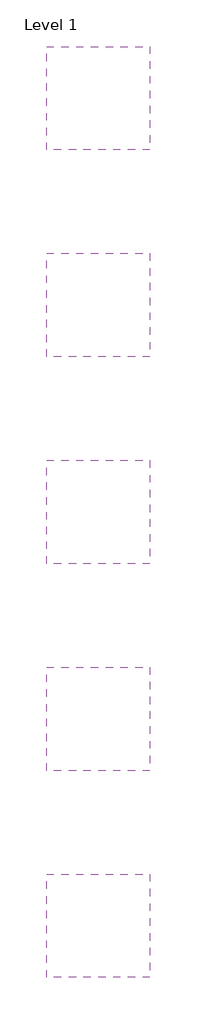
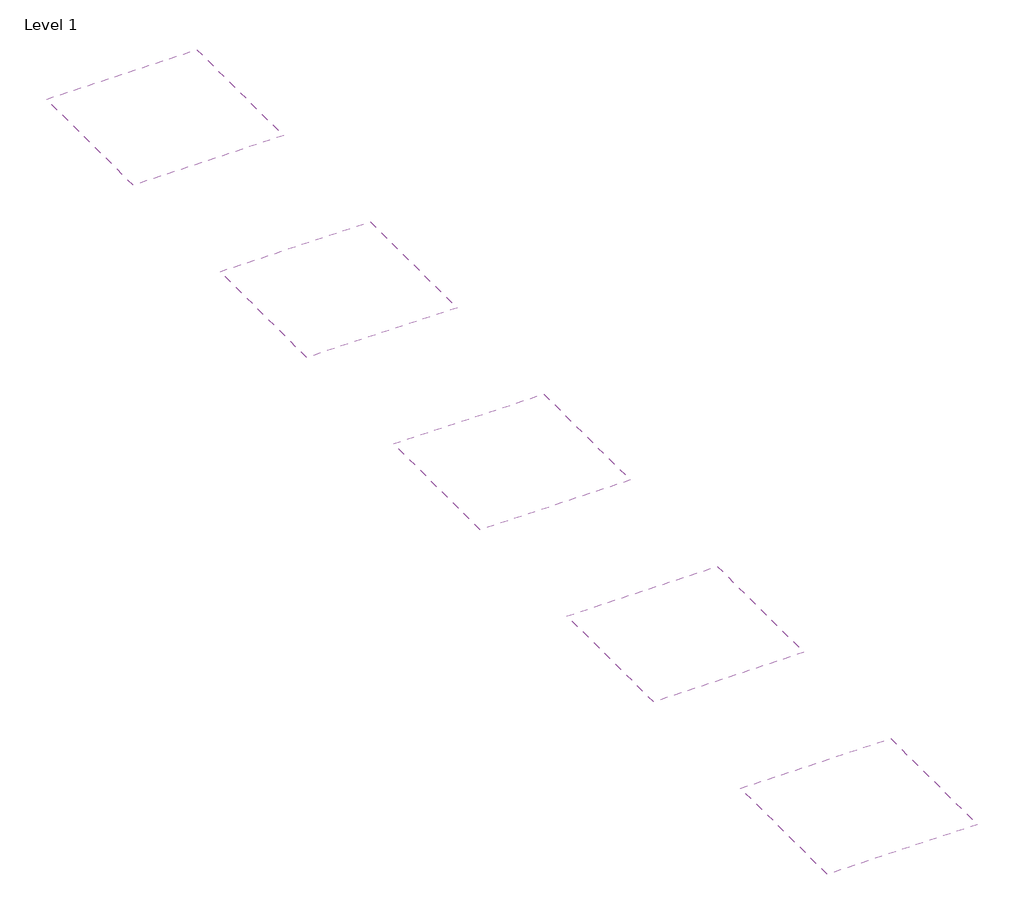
# One storey: 5 coverings.
"""IFC4 building model written with IfcOpenShell, lengths in millimetres."""

from ifc_helpers import new_model, si_unit, frame, origin, place, context, project, spatial, polyline, outline, extrude, element, save

model = new_model("IFC4")

# Units and contexts
model_context = context("Model", 3, world=origin())
ifc_project = project(units=[si_unit("LENGTHUNIT", "METRE", prefix="MILLI")], contexts=[model_context])

# Site, building, storey
site = spatial("IfcSite", under=ifc_project)
building = spatial("IfcBuilding", under=site)
storey = spatial("IfcBuildingStorey", under=building, Name="Level 1", Elevation=0.0)

# Coverings
placement = place(None, origin())
element("IfcCovering", 1, ObjectType="NBS_ArmstrongCeilingsLtd_UnitModularSuspendedCeilingSystem_Ultima+dBMicroLook90-Prelude15Exposed_600x600x19mm_GB", at=placement, inside=storey, context=model_context, shape_type="SweptSolid", body=[
    extrude(outline(polyline([(2500.0, 17500.0), (2500.0, 15000.0), (0.0, 15000.0), (0.0, 17500.0), (2500.0, 17500.0)])), frame((0.0, 0.0, 2600.0), z_axis=(0.0, 0.0, 1.0), x_axis=(1.0, 0.0, 0.0)), (0.0, 0.0, 1.0), 52.0),
])
element("IfcCovering", 2, ObjectType="NBS_ArmstrongCeilingsLtd_UnitModularSuspendedCeilingSystem_Ultima+dBMicroLook90-Interlude15XL²HRCExposed_600x600x19mm_GB", at=placement, inside=storey, context=model_context, shape_type="SweptSolid", body=[
    extrude(outline(polyline([(2500.0, 12500.0), (2500.0, 10000.0), (0.0, 10000.0), (0.0, 12500.0), (2500.0, 12500.0)])), frame((0.0, 0.0, 2600.0), z_axis=(0.0, 0.0, 1.0), x_axis=(1.0, 0.0, 0.0)), (0.0, 0.0, 1.0), 53.0),
])
element("IfcCovering", 3, ObjectType="NBS_ArmstrongCeilingsLtd_UnitModularSuspendedCeilingSystem_Ultima+dBMicroLook90-Silhouette15XL²Exposed_600x600x19mm_GB", at=placement, inside=storey, context=model_context, shape_type="SweptSolid", body=[
    extrude(outline(polyline([(2500.0, 7500.0), (2500.0, 5000.0), (0.0, 5000.0), (0.0, 7500.0), (2500.0, 7500.0)])), frame((0.0, 0.0, 2600.0), z_axis=(0.0, 0.0, 1.0), x_axis=(1.0, 0.0, 0.0)), (0.0, 0.0, 1.0), 53.0),
])
element("IfcCovering", 4, ObjectType="NBS_ArmstrongCeilingsLtd_UnitModularSuspendedCeilingSystem_Ultima+dBMicroLook90-Prelude15Exposed_625x625x19mm_DE", at=placement, inside=storey, context=model_context, shape_type="SweptSolid", body=[
    extrude(outline(polyline([(2500.0, 2500.0), (2500.0, 0.0), (0.0, 0.0), (0.0, 2500.0), (2500.0, 2500.0)])), frame((0.0, 0.0, 2600.0), z_axis=(0.0, 0.0, 1.0), x_axis=(1.0, 0.0, 0.0)), (0.0, 0.0, 1.0), 52.0),
])
element("IfcCovering", 5, ObjectType="NBS_ArmstrongCeilingsLtd_UnitModularSuspendedCeilingSystem_Ultima+dBMicroLook90-Prelude15Exposed_675x675x19mm_FR", at=placement, inside=storey, context=model_context, shape_type="SweptSolid", body=[
    extrude(outline(polyline([(2500.0, -2500.0), (2500.0, -5000.0), (0.0, -5000.0), (0.0, -2500.0), (2500.0, -2500.0)])), frame((0.0, 0.0, 2600.0), z_axis=(0.0, 0.0, 1.0), x_axis=(1.0, 0.0, 0.0)), (0.0, 0.0, 1.0), 52.0),
])

save(model, "model.ifc")
